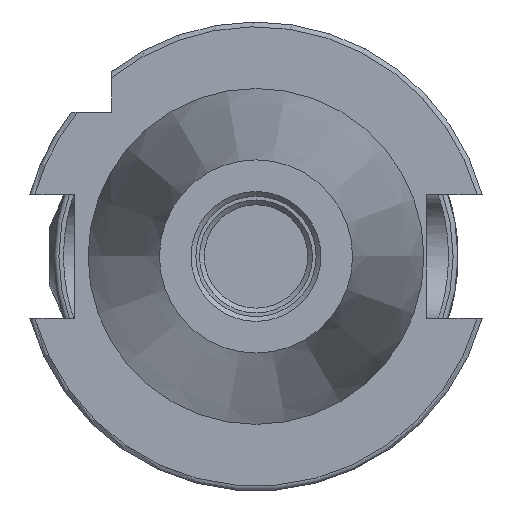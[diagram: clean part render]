
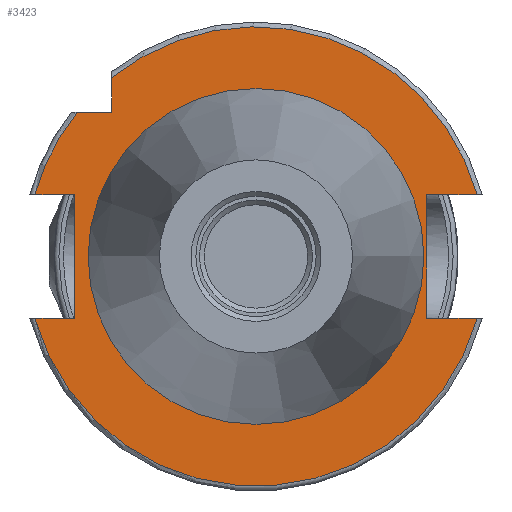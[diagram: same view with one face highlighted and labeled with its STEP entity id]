
A CAD part, front view. The second image highlights one B-rep face of the part: STEP entity #3423.
In plain terms, the highlighted planar face has unit normal (0, -1, 0).
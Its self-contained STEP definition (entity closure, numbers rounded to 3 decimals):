
#182=FACE_BOUND('',#584,.T.);
#230=PLANE('',#3702);
#377=FACE_OUTER_BOUND('',#583,.T.);
#583=EDGE_LOOP('',(#2521,#2522,#2523,#2524,#2525,#2526,#2527,#2528,#2529,
#2530,#2531));
#584=EDGE_LOOP('',(#2532));
#776=LINE('',#5017,#1040);
#787=LINE('',#5090,#1051);
#796=LINE('',#5140,#1060);
#799=LINE('',#5170,#1063);
#801=LINE('',#5174,#1065);
#809=LINE('',#5232,#1073);
#822=LINE('',#5296,#1086);
#824=LINE('',#5311,#1088);
#1040=VECTOR('',#4020,10.);
#1051=VECTOR('',#4035,10.);
#1060=VECTOR('',#4046,10.);
#1063=VECTOR('',#4055,10.);
#1065=VECTOR('',#4059,10.);
#1073=VECTOR('',#4069,10.);
#1086=VECTOR('',#4084,10.);
#1088=VECTOR('',#4088,10.);
#1311=CIRCLE('',#3640,47.75);
#1312=CIRCLE('',#3642,47.75);
#1343=CIRCLE('',#3701,47.75);
#1344=CIRCLE('',#3703,34.5);
#1449=VERTEX_POINT('',#5014);
#1450=VERTEX_POINT('',#5016);
#1464=VERTEX_POINT('',#5079);
#1477=VERTEX_POINT('',#5128);
#1478=VERTEX_POINT('',#5139);
#1482=VERTEX_POINT('',#5169);
#1483=VERTEX_POINT('',#5173);
#1494=VERTEX_POINT('',#5219);
#1496=VERTEX_POINT('',#5231);
#1514=VERTEX_POINT('',#5295);
#1516=VERTEX_POINT('',#5310);
#1529=VERTEX_POINT('',#5423);
#1783=EDGE_CURVE('',#1450,#1449,#776,.T.);
#1800=EDGE_CURVE('',#1449,#1464,#787,.T.);
#1813=EDGE_CURVE('',#1478,#1477,#796,.T.);
#1819=EDGE_CURVE('',#1482,#1478,#799,.T.);
#1821=EDGE_CURVE('',#1483,#1450,#801,.T.);
#1834=EDGE_CURVE('',#1496,#1494,#809,.T.);
#1853=EDGE_CURVE('',#1514,#1496,#822,.T.);
#1856=EDGE_CURVE('',#1516,#1482,#824,.T.);
#1869=EDGE_CURVE('',#1516,#1494,#1311,.T.);
#1870=EDGE_CURVE('',#1483,#1477,#1312,.T.);
#1902=EDGE_CURVE('',#1514,#1464,#1343,.T.);
#1903=EDGE_CURVE('',#1529,#1529,#1344,.T.);
#2521=ORIENTED_EDGE('',*,*,#1800,.T.);
#2522=ORIENTED_EDGE('',*,*,#1902,.F.);
#2523=ORIENTED_EDGE('',*,*,#1853,.T.);
#2524=ORIENTED_EDGE('',*,*,#1834,.T.);
#2525=ORIENTED_EDGE('',*,*,#1869,.F.);
#2526=ORIENTED_EDGE('',*,*,#1856,.T.);
#2527=ORIENTED_EDGE('',*,*,#1819,.T.);
#2528=ORIENTED_EDGE('',*,*,#1813,.T.);
#2529=ORIENTED_EDGE('',*,*,#1870,.F.);
#2530=ORIENTED_EDGE('',*,*,#1821,.T.);
#2531=ORIENTED_EDGE('',*,*,#1783,.T.);
#2532=ORIENTED_EDGE('',*,*,#1903,.F.);
#3423=ADVANCED_FACE('',(#377,#182),#230,.T.);
#3640=AXIS2_PLACEMENT_3D('',#5357,#4100,#4101);
#3642=AXIS2_PLACEMENT_3D('',#5359,#4104,#4105);
#3701=AXIS2_PLACEMENT_3D('',#5421,#4223,#4224);
#3702=AXIS2_PLACEMENT_3D('',#5422,#4225,#4226);
#3703=AXIS2_PLACEMENT_3D('',#5424,#4227,#4228);
#4020=DIRECTION('',(0.,0.,1.));
#4035=DIRECTION('',(1.,0.,0.));
#4046=DIRECTION('',(-1.,0.,0.));
#4055=DIRECTION('',(0.,0.,-1.));
#4059=DIRECTION('',(-1.,0.,0.));
#4069=DIRECTION('',(-1.,0.,0.));
#4084=DIRECTION('',(0.,0.,-1.));
#4088=DIRECTION('',(1.,0.,0.));
#4100=DIRECTION('center_axis',(0.,1.,0.));
#4101=DIRECTION('ref_axis',(-1.,0.,0.));
#4104=DIRECTION('center_axis',(0.,1.,0.));
#4105=DIRECTION('ref_axis',(-1.,0.,0.));
#4223=DIRECTION('center_axis',(0.,1.,0.));
#4224=DIRECTION('ref_axis',(-1.,0.,0.));
#4225=DIRECTION('center_axis',(0.,-1.,0.));
#4226=DIRECTION('ref_axis',(0.,0.,-1.));
#4227=DIRECTION('center_axis',(0.,-1.,0.));
#4228=DIRECTION('ref_axis',(1.,0.,0.));
#5014=CARTESIAN_POINT('',(35.5,-52.05,12.85));
#5016=CARTESIAN_POINT('',(35.5,-52.05,-12.85));
#5017=CARTESIAN_POINT('',(35.5,-52.05,-6.425));
#5079=CARTESIAN_POINT('',(45.988,-52.05,12.85));
#5090=CARTESIAN_POINT('',(35.,-52.05,12.85));
#5128=CARTESIAN_POINT('',(-45.988,-52.05,-12.85));
#5139=CARTESIAN_POINT('',(-37.7,-52.05,-12.85));
#5140=CARTESIAN_POINT('',(-1.6,-52.05,-12.85));
#5169=CARTESIAN_POINT('',(-37.7,-52.05,12.85));
#5170=CARTESIAN_POINT('',(-37.7,-52.05,6.425));
#5173=CARTESIAN_POINT('',(45.988,-52.05,-12.85));
#5174=CARTESIAN_POINT('',(41.625,-52.05,-12.85));
#5219=CARTESIAN_POINT('',(-37.149,-52.05,30.));
#5231=CARTESIAN_POINT('',(-30.,-52.05,30.));
#5232=CARTESIAN_POINT('',(2.25,-52.05,30.));
#5295=CARTESIAN_POINT('',(-30.,-52.05,37.149));
#5296=CARTESIAN_POINT('',(-30.,-52.05,19.213));
#5310=CARTESIAN_POINT('',(-45.988,-52.05,12.85));
#5311=CARTESIAN_POINT('',(-7.125,-52.05,12.85));
#5357=CARTESIAN_POINT('Origin',(0.,-52.05,0.));
#5359=CARTESIAN_POINT('Origin',(0.,-52.05,0.));
#5421=CARTESIAN_POINT('Origin',(0.,-52.05,0.));
#5422=CARTESIAN_POINT('Origin',(34.5,-52.05,0.));
#5423=CARTESIAN_POINT('',(-34.5,-52.05,0.));
#5424=CARTESIAN_POINT('Origin',(0.,-52.05,0.));
